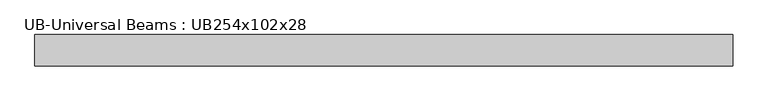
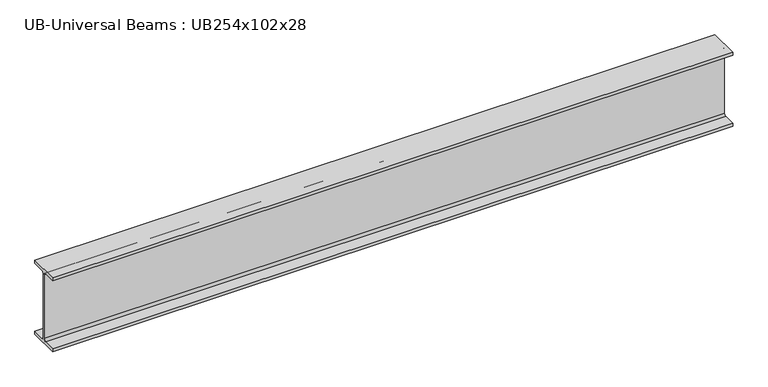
"""IFC4 building model written with IfcOpenShell, lengths in millimetres: beam geometry, UB-Universal Beams : UB254x102x28."""

from ifc_helpers import new_model, si_unit, point, frame, frame_2d, origin, place, context, project, spatial, polyline, circle_curve, trimmed, segment, composite_curve, outline, extrude, source, transform, mapped, element, save


def ub_universal_beams_ub254x102x28_61ad7141(model_context):
    return source(origin(), model_context, "Body", "SweptSolid", [
        extrude(outline(composite_curve([segment(polyline([(51.1, -120.2), (51.1, -130.2), (-51.1, -130.2), (-51.1, -120.2), (-10.75, -120.2)]), True, "CONTINUOUS"), segment(trimmed(circle_curve(frame_2d((-10.75, -112.6)), 7.6), [point((-10.75, -120.2))], [point((-3.15, -112.6))], True, "CARTESIAN"), True, "CONTINUOUS"), segment(polyline([(-3.15, -112.6), (-3.15, 112.6)]), True, "CONTINUOUS"), segment(trimmed(circle_curve(frame_2d((-10.75, 112.6)), 7.6), [point((-3.15, 112.6))], [point((-10.75, 120.2))], True, "CARTESIAN"), True, "CONTINUOUS"), segment(polyline([(-10.75, 120.2), (-51.1, 120.2), (-51.1, 130.2), (51.1, 130.2), (51.1, 120.2), (10.75, 120.2)]), True, "CONTINUOUS"), segment(trimmed(circle_curve(frame_2d((10.75, 112.6)), 7.6), [point((10.75, 120.2))], [point((3.15, 112.6))], True, "CARTESIAN"), True, "CONTINUOUS"), segment(polyline([(3.15, 112.6), (3.15, -112.6)]), True, "CONTINUOUS"), segment(trimmed(circle_curve(frame_2d((10.75, -112.6)), 7.6), [point((3.15, -112.6))], [point((10.75, -120.2))], True, "CARTESIAN"), True, "CONTINUOUS"), segment(polyline([(10.75, -120.2), (51.1, -120.2)]), True, "CONTINUOUS")], self_intersect=False)), frame((-1133.5, 0.0, 0.0), z_axis=(1.0, 0.0, 0.0), x_axis=(0.0, 1.0, 0.0)), (0.0, 0.0, 1.0), 2271.8),
    ])


if __name__ == "__main__":
    model = new_model("IFC4")
    model_context = context("Model", 3, world=origin())
    ifc_project = project(units=[si_unit("LENGTHUNIT", "METRE", prefix="MILLI")], contexts=[model_context])
    site = spatial("IfcSite", under=ifc_project)
    building = spatial("IfcBuilding", under=site)
    placement = place(None, origin())
    ub_universal_beams_ub254x102x28_shape = ub_universal_beams_ub254x102x28_61ad7141(model_context)
    element("IfcBeam", 1, ObjectType="UB-Universal Beams : UB254x102x28", at=placement, inside=building, context=model_context, shape_type="MappedRepresentation", body=[
        mapped(ub_universal_beams_ub254x102x28_shape, transform((0.0, 0.0, 0.0), x_axis=(1.0, 0.0, 0.0), y_axis=(0.0, 1.0, 0.0), z_axis=(0.0, 0.0, 1.0))),
    ])
    save(model, "model.ifc")
